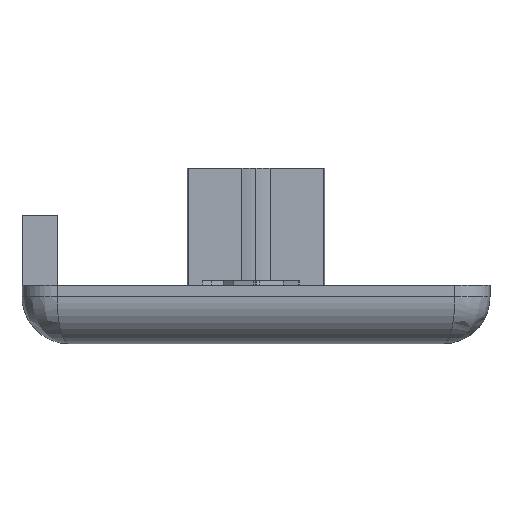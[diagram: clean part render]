
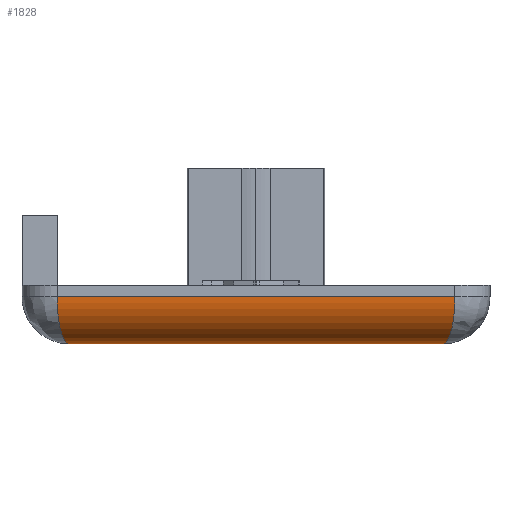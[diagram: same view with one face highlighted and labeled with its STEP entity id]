
A CAD part, left-side view. The second image highlights one B-rep face of the part: STEP entity #1828.
In plain terms, the highlighted cylindrical face has radius 2 mm (diameter 4 mm), a partial arc.
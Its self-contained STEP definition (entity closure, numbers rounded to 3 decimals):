
#54 = ORIENTED_EDGE ( 'NONE', *, *, #802, .F. ) ;
#85 = DIRECTION ( 'NONE',  ( 0., 0., -1. ) ) ;
#96 = EDGE_LOOP ( 'NONE', ( #478, #54, #553, #211 ) ) ;
#211 = ORIENTED_EDGE ( 'NONE', *, *, #702, .F. ) ;
#282 = CARTESIAN_POINT ( 'NONE',  ( -8., -8., 0. ) ) ;
#286 = CARTESIAN_POINT ( 'NONE',  ( -10., -8.5, 0.828 ) ) ;
#305 = CARTESIAN_POINT ( 'NONE',  ( -8., 8., 0. ) ) ;
#417 = DIRECTION ( 'NONE',  ( 0., 1., 0. ) ) ;
#478 = ORIENTED_EDGE ( 'NONE', *, *, #1812, .T. ) ;
#502 = FACE_OUTER_BOUND ( 'NONE', #96, .T. ) ;
#553 = ORIENTED_EDGE ( 'NONE', *, *, #2396, .F. ) ;
#702 = EDGE_CURVE ( 'NONE', #1333, #1767, #2207, .T. ) ;
#756 = CARTESIAN_POINT ( 'NONE',  ( -10., 8.5, 0.828 ) ) ;
#802 = EDGE_CURVE ( 'NONE', #2008, #1465, #1847, .T. ) ;
#961 = CARTESIAN_POINT ( 'NONE',  ( -9.172, -8.293, 0. ) ) ;
#974 = CARTESIAN_POINT ( 'NONE',  ( -8., -10., 2. ) ) ;
#1084 = CARTESIAN_POINT ( 'NONE',  ( -8., 0., 0. ) ) ;
#1193 = CARTESIAN_POINT ( 'NONE',  ( -10., -8.5, 2. ) ) ;
#1283 = CYLINDRICAL_SURFACE ( 'NONE', #1965, 2. ) ;
#1286 = CARTESIAN_POINT ( 'NONE',  ( -8., -8., 0. ) ) ;
#1333 = VERTEX_POINT ( 'NONE', #1286 ) ;
#1465 = VERTEX_POINT ( 'NONE', #2374 ) ;
#1618 = VECTOR ( 'NONE', #417, 1000. ) ;
#1712 =( BOUNDED_CURVE ( )  B_SPLINE_CURVE ( 3, ( #282, #961, #286, #1193 ),
 .UNSPECIFIED., .F., .F. ) 
 B_SPLINE_CURVE_WITH_KNOTS ( ( 4, 4 ),
 ( 4.712, 6.283 ),
 .UNSPECIFIED. ) 
 CURVE ( )  GEOMETRIC_REPRESENTATION_ITEM ( )  RATIONAL_B_SPLINE_CURVE ( ( 1., 0.805, 0.805, 1. ) ) 
 REPRESENTATION_ITEM ( '' )  );
#1767 = VERTEX_POINT ( 'NONE', #2715 ) ;
#1812 = EDGE_CURVE ( 'NONE', #1333, #1465, #1712, .T. ) ;
#1828 = ADVANCED_FACE ( 'NONE', ( #502 ), #1283, .T. ) ;
#1847 = LINE ( 'NONE', #2009, #2499 ) ;
#1965 = AXIS2_PLACEMENT_3D ( 'NONE', #974, #2510, #85 ) ;
#1968 =( BOUNDED_CURVE ( )  B_SPLINE_CURVE ( 3, ( #305, #2098, #756, #2100 ),
 .UNSPECIFIED., .F., .T. ) 
 B_SPLINE_CURVE_WITH_KNOTS ( ( 4, 4 ),
 ( 4.712, 6.283 ),
 .UNSPECIFIED. ) 
 CURVE ( )  GEOMETRIC_REPRESENTATION_ITEM ( )  RATIONAL_B_SPLINE_CURVE ( ( 1., 0.805, 0.805, 1. ) ) 
 REPRESENTATION_ITEM ( '' )  );
#2008 = VERTEX_POINT ( 'NONE', #2633 ) ;
#2009 = CARTESIAN_POINT ( 'NONE',  ( -10., -10., 2. ) ) ;
#2098 = CARTESIAN_POINT ( 'NONE',  ( -9.172, 8.293, 0. ) ) ;
#2100 = CARTESIAN_POINT ( 'NONE',  ( -10., 8.5, 2. ) ) ;
#2207 = LINE ( 'NONE', #1084, #1618 ) ;
#2230 = DIRECTION ( 'NONE',  ( 0., -1., 0. ) ) ;
#2374 = CARTESIAN_POINT ( 'NONE',  ( -10., -8.5, 2. ) ) ;
#2396 = EDGE_CURVE ( 'NONE', #1767, #2008, #1968, .T. ) ;
#2499 = VECTOR ( 'NONE', #2230, 1000. ) ;
#2510 = DIRECTION ( 'NONE',  ( 0., -1., 0. ) ) ;
#2633 = CARTESIAN_POINT ( 'NONE',  ( -10., 8.5, 2. ) ) ;
#2715 = CARTESIAN_POINT ( 'NONE',  ( -8., 8., 0. ) ) ;
